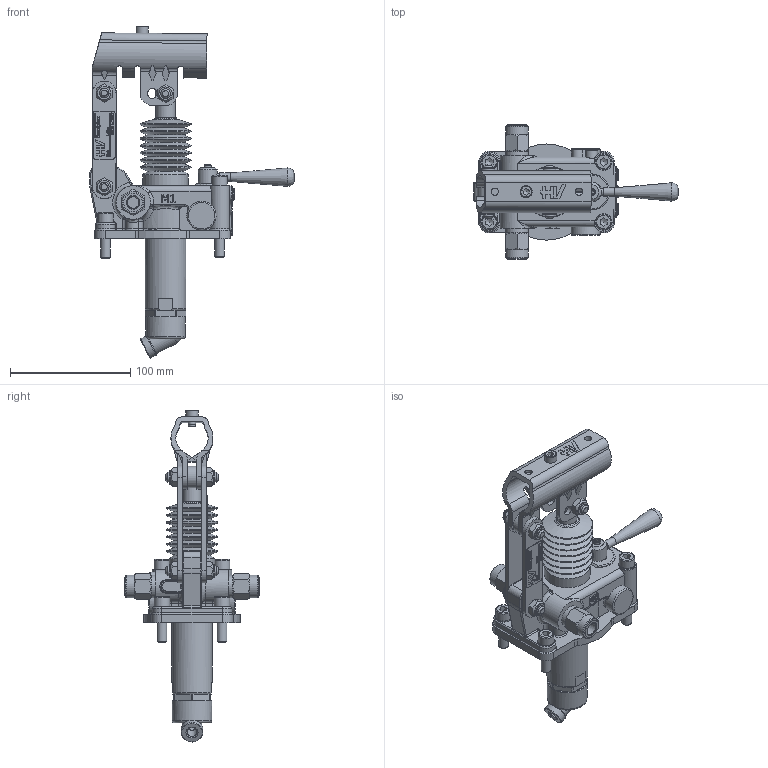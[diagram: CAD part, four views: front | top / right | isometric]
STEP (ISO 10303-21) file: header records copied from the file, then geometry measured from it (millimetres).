
FILE_DESCRIPTION((''),'2;1');
FILE_NAME('G:\HV_HYDRAULIC\AZIENDA_HV_HYDRAULIC\ARCHIVIO_DISEGNI\5_PRODOTTI_FINITI\1_POMPE_MANUALI\6061_PMDVB_25\6061.0107_PMDVB_25_cc-byA-s_(HV)\6061.0107.stp','2024-03-07T14:54:13',('christian.scardovi'),(''),'Autodesk Inventor 2013','Autodesk Inventor 2013','');
FILE_SCHEMA(('AUTOMOTIVE_DESIGN { 1 0 10303 214 1 1 1 1 }'));
Length unit declared in the file: millimetre
Products named in the file (1): 6061.0107
Bounding box: 170 x 112 x 276.08 mm (x, y, z)
Volume: 460712 mm3; surface area: 129865.6 mm2
Topology: 3 solids, 3 shells, 1681 faces, 4274 edges, 2706 vertices
Faces by surface type: plane 813, cylinder 366, cone 190, bspline 184, torus 115, sphere 13
Full cylindrical faces by diameter (mm): 1.2 x4, 3 x7, 4 x4, 4.917 x13, 5 x10, 6 x8, 6.5 x3, 6.917 x2, 7 x3, 8 x15, 9 x3, 9.2 x1, 10 x13, 10.376 x1, 10.5 x2, 10.917 x3, 11.05 x6, 11.445 x2, 12 x7, 13 x4, 13.2 x1, 14 x4, 14.95 x2, 15.5 x2, 15.9 x2, 16 x5, 17.6 x1, 18 x4, 19 x4, 22 x1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
Entity records: 52454 total; most frequent: CARTESIAN_POINT 13970, ORIENTED_EDGE 7576, DIRECTION 7094, EDGE_CURVE 3788, AXIS2_PLACEMENT_3D 2551, VERTEX_POINT 2549, EDGE_LOOP 2154, VECTOR 1992
